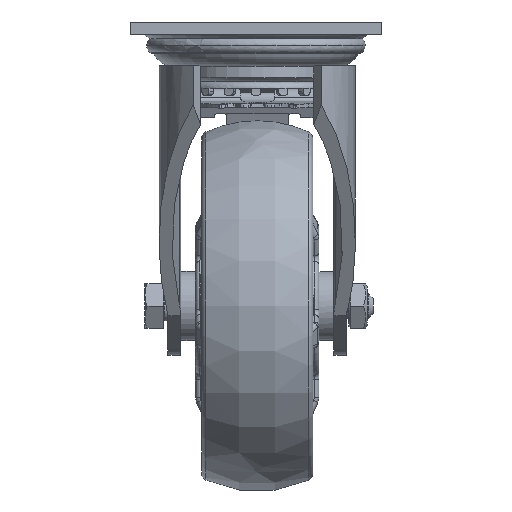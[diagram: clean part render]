
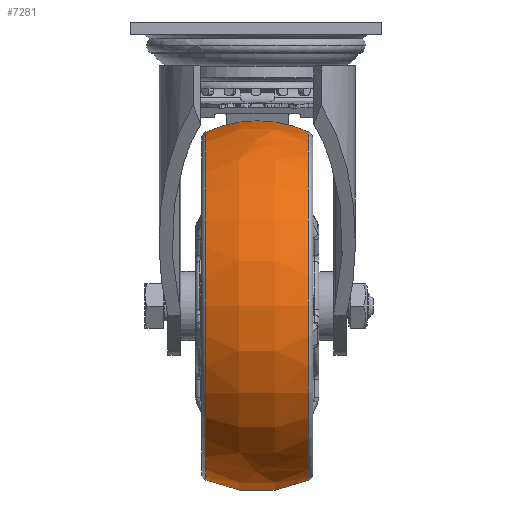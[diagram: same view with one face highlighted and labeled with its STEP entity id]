
A CAD part, left-side view. The second image highlights one B-rep face of the part: STEP entity #7281.
In plain terms, the highlighted free-form (B-spline) face has degree [3, 3] with [4, 7] control points.
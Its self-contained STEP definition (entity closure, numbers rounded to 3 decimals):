
#108=(
BOUNDED_SURFACE()
B_SPLINE_SURFACE(3,3,((#46662,#46663,#46664,#46665,#46666,#46667,#46668),
(#46669,#46670,#46671,#46672,#46673,#46674,#46675),(#46676,#46677,#46678,
#46679,#46680,#46681,#46682),(#46683,#46684,#46685,#46686,#46687,#46688,
#46689)),.UNSPECIFIED.,.F.,.T.,.F.)
B_SPLINE_SURFACE_WITH_KNOTS((4,4),(1,3,3,3,1),(0.,1.),(-0.5,0.,0.5,1.,1.5),
 .UNSPECIFIED.)
GEOMETRIC_REPRESENTATION_ITEM()
RATIONAL_B_SPLINE_SURFACE(((1.,0.333,0.333,1.,0.333,
0.333,1.),(0.94,0.313,0.313,
0.94,0.313,0.313,0.94),
(0.94,0.313,0.313,0.94,
0.313,0.313,0.94),(1.,0.333,
0.333,1.,0.333,0.333,1.)))
REPRESENTATION_ITEM('')
SURFACE()
);
#7281=ADVANCED_FACE('',(#8990,#8991),#108,.T.);
#8990=FACE_BOUND('',#10202,.T.);
#8991=FACE_BOUND('',#10203,.T.);
#10202=EDGE_LOOP('',(#15636));
#10203=EDGE_LOOP('',(#15637));
#15636=ORIENTED_EDGE('',*,*,#23618,.T.);
#15637=ORIENTED_EDGE('',*,*,#23619,.T.);
#20353=VERTEX_POINT('',#46659);
#20354=VERTEX_POINT('',#46661);
#23618=EDGE_CURVE('',#20353,#20353,#25637,.T.);
#23619=EDGE_CURVE('',#20354,#20354,#25638,.T.);
#25637=CIRCLE('',#27934,70.493);
#25638=CIRCLE('',#27935,70.493);
#27934=AXIS2_PLACEMENT_3D('',#46658,#33487,#33488);
#27935=AXIS2_PLACEMENT_3D('',#46660,#33489,#33490);
#33487=DIRECTION('',(0.,-1.,0.));
#33488=DIRECTION('',(0.,0.,-1.));
#33489=DIRECTION('',(0.,1.,0.));
#33490=DIRECTION('',(0.,0.,1.));
#46658=CARTESIAN_POINT('',(44.,20.245,-115.));
#46659=CARTESIAN_POINT('',(44.,20.245,-185.493));
#46660=CARTESIAN_POINT('',(44.,-21.245,-115.));
#46661=CARTESIAN_POINT('',(44.,-21.245,-44.507));
#46662=CARTESIAN_POINT('',(44.,20.245,-44.507));
#46663=CARTESIAN_POINT('',(184.987,20.245,-44.507));
#46664=CARTESIAN_POINT('',(184.987,20.245,-185.493));
#46665=CARTESIAN_POINT('',(44.,20.245,-185.493));
#46666=CARTESIAN_POINT('',(-96.987,20.245,-185.493));
#46667=CARTESIAN_POINT('',(-96.987,20.245,-44.507));
#46668=CARTESIAN_POINT('',(44.,20.245,-44.507));
#46669=CARTESIAN_POINT('',(44.,6.857,-38.402));
#46670=CARTESIAN_POINT('',(197.196,6.857,-38.402));
#46671=CARTESIAN_POINT('',(197.196,6.857,-191.598));
#46672=CARTESIAN_POINT('',(44.,6.857,-191.598));
#46673=CARTESIAN_POINT('',(-109.196,6.857,-191.598));
#46674=CARTESIAN_POINT('',(-109.196,6.857,-38.402));
#46675=CARTESIAN_POINT('',(44.,6.857,-38.402));
#46676=CARTESIAN_POINT('',(44.,-7.857,-38.402));
#46677=CARTESIAN_POINT('',(197.196,-7.857,-38.402));
#46678=CARTESIAN_POINT('',(197.196,-7.857,-191.598));
#46679=CARTESIAN_POINT('',(44.,-7.857,-191.598));
#46680=CARTESIAN_POINT('',(-109.196,-7.857,-191.598));
#46681=CARTESIAN_POINT('',(-109.196,-7.857,-38.402));
#46682=CARTESIAN_POINT('',(44.,-7.857,-38.402));
#46683=CARTESIAN_POINT('',(44.,-21.245,-44.507));
#46684=CARTESIAN_POINT('',(184.987,-21.245,-44.507));
#46685=CARTESIAN_POINT('',(184.987,-21.245,-185.493));
#46686=CARTESIAN_POINT('',(44.,-21.245,-185.493));
#46687=CARTESIAN_POINT('',(-96.987,-21.245,-185.493));
#46688=CARTESIAN_POINT('',(-96.987,-21.245,-44.507));
#46689=CARTESIAN_POINT('',(44.,-21.245,-44.507));
